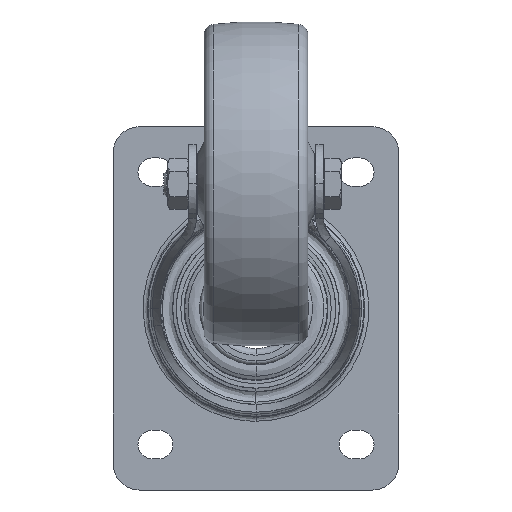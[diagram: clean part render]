
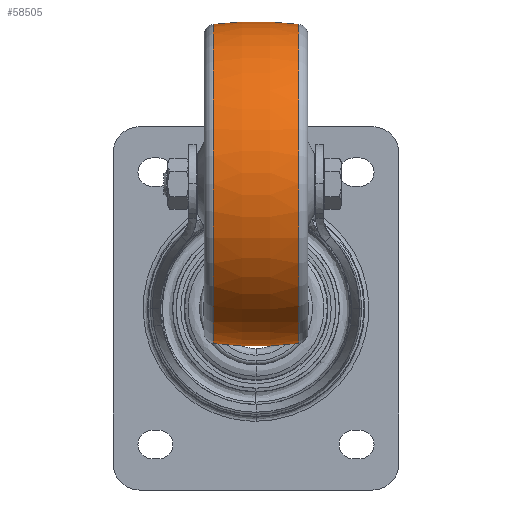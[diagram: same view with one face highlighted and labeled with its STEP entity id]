
A CAD part, front view. The second image highlights one B-rep face of the part: STEP entity #58505.
In plain terms, the highlighted toroidal (fillet/blend) face has major radius 67.5 mm and minor radius 130 mm.
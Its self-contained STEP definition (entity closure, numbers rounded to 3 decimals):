
#565 = TOROIDAL_SURFACE ( 'NONE', #49520, -67.5, 130. ) ;
#1475 = EDGE_CURVE ( 'NONE', #67640, #36899, #30254, .T. ) ;
#2592 = DIRECTION ( 'NONE',  ( -1., 0., 0. ) ) ;
#2955 = DIRECTION ( 'NONE',  ( -1., 0., 0. ) ) ;
#3748 = CARTESIAN_POINT ( 'NONE',  ( 0., 67.5, 0. ) ) ;
#3892 = FACE_OUTER_BOUND ( 'NONE', #41456, .T. ) ;
#5176 = ORIENTED_EDGE ( 'NONE', *, *, #18383, .T. ) ;
#9961 = CIRCLE ( 'NONE', #16875, 130. ) ;
#12445 = CARTESIAN_POINT ( 'NONE',  ( 0., -67.5, 0. ) ) ;
#13903 = ORIENTED_EDGE ( 'NONE', *, *, #1475, .F. ) ;
#15001 = ORIENTED_EDGE ( 'NONE', *, *, #40634, .T. ) ;
#16875 = AXIS2_PLACEMENT_3D ( 'NONE', #12445, #49251, #65126 ) ;
#18383 = EDGE_CURVE ( 'NONE', #39355, #31961, #24083, .T. ) ;
#24083 = CIRCLE ( 'NONE', #47774, 61.448 ) ;
#28967 = CARTESIAN_POINT ( 'NONE',  ( 0., 0., 0. ) ) ;
#29437 = DIRECTION ( 'NONE',  ( 0., -1., 0. ) ) ;
#29778 = DIRECTION ( 'NONE',  ( 0.127, -0.992, 0. ) ) ;
#30254 = CIRCLE ( 'NONE', #35325, 61.448 ) ;
#30430 = CARTESIAN_POINT ( 'NONE',  ( 16.508, 0., 0. ) ) ;
#31961 = VERTEX_POINT ( 'NONE', #53505 ) ;
#33935 = DIRECTION ( 'NONE',  ( 0., -1., 0. ) ) ;
#35325 = AXIS2_PLACEMENT_3D ( 'NONE', #65394, #2592, #33935 ) ;
#36899 = VERTEX_POINT ( 'NONE', #54883 ) ;
#39184 = CIRCLE ( 'NONE', #61768, 130. ) ;
#39355 = VERTEX_POINT ( 'NONE', #57962 ) ;
#40634 = EDGE_CURVE ( 'NONE', #31961, #36899, #9961, .T. ) ;
#41456 = EDGE_LOOP ( 'NONE', ( #5176, #15001, #13903, #52235 ) ) ;
#47774 = AXIS2_PLACEMENT_3D ( 'NONE', #30430, #67183, #51120 ) ;
#49251 = DIRECTION ( 'NONE',  ( 0., 0., 1. ) ) ;
#49520 = AXIS2_PLACEMENT_3D ( 'NONE', #28967, #2955, #29437 ) ;
#51120 = DIRECTION ( 'NONE',  ( 0., -1., 0. ) ) ;
#52235 = ORIENTED_EDGE ( 'NONE', *, *, #52502, .F. ) ;
#52502 = EDGE_CURVE ( 'NONE', #39355, #67640, #39184, .T. ) ;
#53505 = CARTESIAN_POINT ( 'NONE',  ( 16.508, 61.448, 0. ) ) ;
#54883 = CARTESIAN_POINT ( 'NONE',  ( -16.508, 61.448, 0. ) ) ;
#55559 = DIRECTION ( 'NONE',  ( 0., 0., -1. ) ) ;
#57962 = CARTESIAN_POINT ( 'NONE',  ( 16.508, -61.448, 0. ) ) ;
#58505 = ADVANCED_FACE ( 'NONE', ( #3892 ), #565, .T. ) ;
#60491 = CARTESIAN_POINT ( 'NONE',  ( -16.508, -61.448, 0. ) ) ;
#61768 = AXIS2_PLACEMENT_3D ( 'NONE', #3748, #55559, #29778 ) ;
#65126 = DIRECTION ( 'NONE',  ( 0.127, 0.992, 0. ) ) ;
#65394 = CARTESIAN_POINT ( 'NONE',  ( -16.508, 0., 0. ) ) ;
#67183 = DIRECTION ( 'NONE',  ( -1., 0., 0. ) ) ;
#67640 = VERTEX_POINT ( 'NONE', #60491 ) ;
